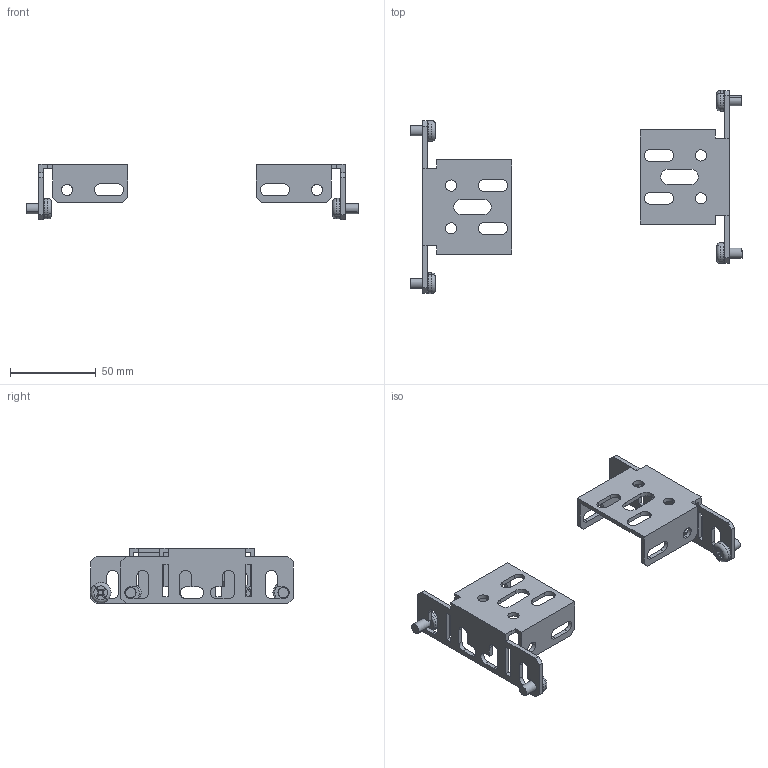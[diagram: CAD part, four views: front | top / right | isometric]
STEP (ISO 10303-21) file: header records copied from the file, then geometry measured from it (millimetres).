
FILE_DESCRIPTION (( 'STEP AP214' ), '1' );
FILE_NAME ('FO-00-BPRM-2 Êðîíøòåéí ïðîôèëÿ ìîíòàæíîãî 50?25 òèïà 2 (2 øò.óïàê.).STEP', '2025-08-04T10:24:12', ( '' ), ( '' ), 'SwSTEP 2.0', 'SolidWorks 2023', '' );
FILE_SCHEMA (( 'AUTOMOTIVE_DESIGN' ));
Length unit declared in the file: millimetre
Products named in the file (3): Кронштейн профиля монтажного 50×25 типа 2; Винт М6х10 IEK; FO-00-BPRM-2 Кронштейн профиля монтажного 50×25 типа 2 (2 шт.упак.)
Assembly tree (6 placements, depth 2):
  FO-00-BPRM-2 Кронштейн профиля монтажного 50×25 типа 2 (2 шт.упак.)
    Кронштейн профиля монтажного 50×25 типа 2  x2
    Винт М6х10 IEK  x4
Bounding box: 193.83 x 118.55 x 32.5 mm (x, y, z)
Volume: 32525.8 mm3; surface area: 31403.2 mm2
Topology: 6 solids, 6 shells, 330 faces, 906 edges, 596 vertices
Faces by surface type: plane 188, cylinder 82, cone 44, torus 16
Entity records: 4524 total; most frequent: CARTESIAN_POINT 795, DIRECTION 758, ORIENTED_EDGE 756, EDGE_CURVE 378, LINE 268, VECTOR 268, VERTEX_POINT 250, AXIS2_PLACEMENT_3D 245
